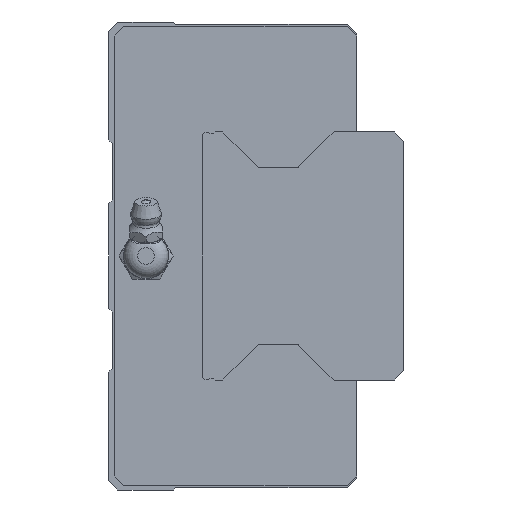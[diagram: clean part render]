
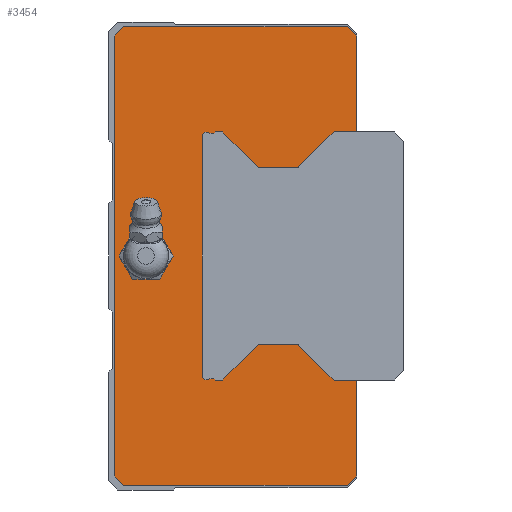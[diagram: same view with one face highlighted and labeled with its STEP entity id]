
A CAD part, left-side view. The second image highlights one B-rep face of the part: STEP entity #3454.
In plain terms, the highlighted planar face has unit normal (-1, 0, 0).
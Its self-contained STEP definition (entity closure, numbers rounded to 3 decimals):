
#178=CIRCLE('',#3776,4.864);
#179=CIRCLE('',#3777,0.3);
#180=CIRCLE('',#3778,0.3);
#181=CIRCLE('',#3779,1.);
#182=CIRCLE('',#3780,1.);
#183=CIRCLE('',#3781,0.3);
#184=CIRCLE('',#3782,0.3);
#678=ORIENTED_EDGE('',*,*,#1422,.T.);
#679=ORIENTED_EDGE('',*,*,#1423,.T.);
#680=ORIENTED_EDGE('',*,*,#1415,.F.);
#681=ORIENTED_EDGE('',*,*,#1343,.F.);
#682=ORIENTED_EDGE('',*,*,#1339,.F.);
#683=ORIENTED_EDGE('',*,*,#1331,.F.);
#684=ORIENTED_EDGE('',*,*,#1407,.F.);
#685=ORIENTED_EDGE('',*,*,#1316,.F.);
#686=ORIENTED_EDGE('',*,*,#1354,.F.);
#687=ORIENTED_EDGE('',*,*,#1351,.F.);
#688=ORIENTED_EDGE('',*,*,#1417,.F.);
#689=ORIENTED_EDGE('',*,*,#1424,.T.);
#690=ORIENTED_EDGE('',*,*,#1425,.T.);
#691=ORIENTED_EDGE('',*,*,#1426,.F.);
#692=ORIENTED_EDGE('',*,*,#1427,.T.);
#693=ORIENTED_EDGE('',*,*,#1428,.F.);
#694=ORIENTED_EDGE('',*,*,#1429,.T.);
#695=ORIENTED_EDGE('',*,*,#1430,.T.);
#696=ORIENTED_EDGE('',*,*,#1431,.T.);
#697=ORIENTED_EDGE('',*,*,#1432,.T.);
#698=ORIENTED_EDGE('',*,*,#1433,.T.);
#699=ORIENTED_EDGE('',*,*,#1434,.T.);
#700=ORIENTED_EDGE('',*,*,#1435,.T.);
#701=ORIENTED_EDGE('',*,*,#1436,.T.);
#702=ORIENTED_EDGE('',*,*,#1437,.T.);
#703=ORIENTED_EDGE('',*,*,#1438,.T.);
#704=ORIENTED_EDGE('',*,*,#1439,.T.);
#705=ORIENTED_EDGE('',*,*,#1440,.F.);
#706=ORIENTED_EDGE('',*,*,#1441,.T.);
#707=ORIENTED_EDGE('',*,*,#1442,.F.);
#708=ORIENTED_EDGE('',*,*,#1443,.T.);
#1316=EDGE_CURVE('',#1740,#1741,#2044,.T.);
#1331=EDGE_CURVE('',#1755,#1756,#2059,.T.);
#1339=EDGE_CURVE('',#1756,#1762,#2066,.T.);
#1343=EDGE_CURVE('',#1762,#1764,#2070,.T.);
#1351=EDGE_CURVE('',#1771,#1772,#2078,.T.);
#1354=EDGE_CURVE('',#1772,#1740,#2081,.T.);
#1407=EDGE_CURVE('',#1741,#1755,#2131,.T.);
#1415=EDGE_CURVE('',#1764,#1811,#2139,.T.);
#1417=EDGE_CURVE('',#1814,#1771,#2141,.T.);
#1422=EDGE_CURVE('',#1818,#1818,#178,.T.);
#1423=EDGE_CURVE('',#1819,#1811,#2146,.T.);
#1424=EDGE_CURVE('',#1814,#1820,#2147,.T.);
#1425=EDGE_CURVE('',#1820,#1821,#2148,.T.);
#1426=EDGE_CURVE('',#1822,#1821,#179,.T.);
#1427=EDGE_CURVE('',#1822,#1823,#2149,.T.);
#1428=EDGE_CURVE('',#1824,#1823,#180,.T.);
#1429=EDGE_CURVE('',#1824,#1825,#2150,.T.);
#1430=EDGE_CURVE('',#1825,#1826,#2151,.T.);
#1431=EDGE_CURVE('',#1826,#1827,#2152,.T.);
#1432=EDGE_CURVE('',#1827,#1828,#2153,.T.);
#1433=EDGE_CURVE('',#1828,#1829,#181,.T.);
#1434=EDGE_CURVE('',#1829,#1830,#2154,.T.);
#1435=EDGE_CURVE('',#1830,#1831,#182,.T.);
#1436=EDGE_CURVE('',#1831,#1832,#2155,.T.);
#1437=EDGE_CURVE('',#1832,#1833,#2156,.T.);
#1438=EDGE_CURVE('',#1833,#1834,#2157,.T.);
#1439=EDGE_CURVE('',#1834,#1835,#2158,.T.);
#1440=EDGE_CURVE('',#1836,#1835,#183,.T.);
#1441=EDGE_CURVE('',#1836,#1837,#2159,.T.);
#1442=EDGE_CURVE('',#1838,#1837,#184,.T.);
#1443=EDGE_CURVE('',#1838,#1819,#2160,.T.);
#1740=VERTEX_POINT('',#5258);
#1741=VERTEX_POINT('',#5260);
#1755=VERTEX_POINT('',#5289);
#1756=VERTEX_POINT('',#5291);
#1762=VERTEX_POINT('',#5307);
#1764=VERTEX_POINT('',#5314);
#1771=VERTEX_POINT('',#5329);
#1772=VERTEX_POINT('',#5331);
#1811=VERTEX_POINT('',#5444);
#1814=VERTEX_POINT('',#5454);
#1818=VERTEX_POINT('',#5465);
#1819=VERTEX_POINT('',#5467);
#1820=VERTEX_POINT('',#5469);
#1821=VERTEX_POINT('',#5471);
#1822=VERTEX_POINT('',#5473);
#1823=VERTEX_POINT('',#5475);
#1824=VERTEX_POINT('',#5477);
#1825=VERTEX_POINT('',#5479);
#1826=VERTEX_POINT('',#5481);
#1827=VERTEX_POINT('',#5483);
#1828=VERTEX_POINT('',#5485);
#1829=VERTEX_POINT('',#5487);
#1830=VERTEX_POINT('',#5489);
#1831=VERTEX_POINT('',#5491);
#1832=VERTEX_POINT('',#5493);
#1833=VERTEX_POINT('',#5495);
#1834=VERTEX_POINT('',#5497);
#1835=VERTEX_POINT('',#5499);
#1836=VERTEX_POINT('',#5501);
#1837=VERTEX_POINT('',#5503);
#1838=VERTEX_POINT('',#5505);
#2044=LINE('',#5259,#2332);
#2059=LINE('',#5290,#2347);
#2066=LINE('',#5306,#2354);
#2070=LINE('',#5313,#2358);
#2078=LINE('',#5330,#2366);
#2081=LINE('',#5335,#2369);
#2131=LINE('',#5437,#2419);
#2139=LINE('',#5451,#2427);
#2141=LINE('',#5456,#2429);
#2146=LINE('',#5466,#2434);
#2147=LINE('',#5468,#2435);
#2148=LINE('',#5470,#2436);
#2149=LINE('',#5474,#2437);
#2150=LINE('',#5478,#2438);
#2151=LINE('',#5480,#2439);
#2152=LINE('',#5482,#2440);
#2153=LINE('',#5484,#2441);
#2154=LINE('',#5488,#2442);
#2155=LINE('',#5492,#2443);
#2156=LINE('',#5494,#2444);
#2157=LINE('',#5496,#2445);
#2158=LINE('',#5498,#2446);
#2159=LINE('',#5502,#2447);
#2160=LINE('',#5506,#2448);
#2332=VECTOR('',#4296,1000.);
#2347=VECTOR('',#4313,1000.);
#2354=VECTOR('',#4326,1000.);
#2358=VECTOR('',#4332,1000.);
#2366=VECTOR('',#4342,1000.);
#2369=VECTOR('',#4347,1000.);
#2419=VECTOR('',#4427,1000.);
#2427=VECTOR('',#4439,1000.);
#2429=VECTOR('',#4443,1000.);
#2434=VECTOR('',#4452,1000.);
#2435=VECTOR('',#4453,1000.);
#2436=VECTOR('',#4454,1000.);
#2437=VECTOR('',#4457,1000.);
#2438=VECTOR('',#4460,1000.);
#2439=VECTOR('',#4461,1000.);
#2440=VECTOR('',#4462,1000.);
#2441=VECTOR('',#4463,1000.);
#2442=VECTOR('',#4466,1000.);
#2443=VECTOR('',#4469,1000.);
#2444=VECTOR('',#4470,1000.);
#2445=VECTOR('',#4471,1000.);
#2446=VECTOR('',#4472,1000.);
#2447=VECTOR('',#4475,1000.);
#2448=VECTOR('',#4478,1000.);
#2714=EDGE_LOOP('',(#678));
#2715=EDGE_LOOP('',(#679,#680,#681,#682,#683,#684,#685,#686,#687,#688,#689,
#690,#691,#692,#693,#694,#695,#696,#697,#698,#699,#700,#701,#702,#703,#704,
#705,#706,#707,#708));
#3049=FACE_BOUND('',#2714,.T.);
#3050=FACE_BOUND('',#2715,.T.);
#3294=PLANE('',#3775);
#3454=ADVANCED_FACE('',(#3049,#3050),#3294,.F.);
#3775=AXIS2_PLACEMENT_3D('',#5463,#4448,#4449);
#3776=AXIS2_PLACEMENT_3D('',#5464,#4450,#4451);
#3777=AXIS2_PLACEMENT_3D('',#5472,#4455,#4456);
#3778=AXIS2_PLACEMENT_3D('',#5476,#4458,#4459);
#3779=AXIS2_PLACEMENT_3D('',#5486,#4464,#4465);
#3780=AXIS2_PLACEMENT_3D('',#5490,#4467,#4468);
#3781=AXIS2_PLACEMENT_3D('',#5500,#4473,#4474);
#3782=AXIS2_PLACEMENT_3D('',#5504,#4476,#4477);
#4296=DIRECTION('',(0.,0.707,0.707));
#4313=DIRECTION('',(0.,-0.707,0.707));
#4326=DIRECTION('',(0.,-1.,0.));
#4332=DIRECTION('',(0.,-0.707,-0.707));
#4342=DIRECTION('',(0.,0.707,-0.707));
#4347=DIRECTION('',(0.,1.,0.));
#4427=DIRECTION('',(0.,0.,1.));
#4439=DIRECTION('',(0.,0.,-1.));
#4443=DIRECTION('',(0.,0.,-1.));
#4448=DIRECTION('',(1.,0.,0.));
#4449=DIRECTION('',(0.,0.,-1.));
#4450=DIRECTION('',(1.,0.,0.));
#4451=DIRECTION('',(0.,0.,-1.));
#4452=DIRECTION('',(0.,-1.,0.));
#4453=DIRECTION('',(0.,1.,0.));
#4454=DIRECTION('',(0.,0.712,0.702));
#4455=DIRECTION('',(1.,0.,0.));
#4456=DIRECTION('',(0.,0.,-1.));
#4457=DIRECTION('',(0.,1.,0.));
#4458=DIRECTION('',(1.,0.,0.));
#4459=DIRECTION('',(0.,0.,-1.));
#4460=DIRECTION('',(0.,0.707,-0.707));
#4461=DIRECTION('',(0.,1.,0.));
#4462=DIRECTION('',(0.,0.707,0.707));
#4463=DIRECTION('',(0.,1.,0.));
#4464=DIRECTION('',(1.,0.,0.));
#4465=DIRECTION('',(0.,0.,-1.));
#4466=DIRECTION('',(0.,0.,1.));
#4467=DIRECTION('',(1.,0.,0.));
#4468=DIRECTION('',(0.,0.,-1.));
#4469=DIRECTION('',(0.,-1.,0.));
#4470=DIRECTION('',(0.,-0.707,0.707));
#4471=DIRECTION('',(0.,-1.,0.));
#4472=DIRECTION('',(0.,-0.707,-0.707));
#4473=DIRECTION('',(1.,0.,0.));
#4474=DIRECTION('',(0.,0.,-1.));
#4475=DIRECTION('',(0.,-1.,0.));
#4476=DIRECTION('',(1.,0.,0.));
#4477=DIRECTION('',(0.,0.,-1.));
#4478=DIRECTION('',(0.,-0.712,0.702));
#5258=CARTESIAN_POINT('',(-146.,49.8,-49.));
#5259=CARTESIAN_POINT('',(-146.,49.8,-49.));
#5260=CARTESIAN_POINT('',(-146.,51.8,-47.));
#5289=CARTESIAN_POINT('',(-146.,51.8,47.));
#5290=CARTESIAN_POINT('',(-146.,51.8,47.));
#5291=CARTESIAN_POINT('',(-146.,49.8,49.));
#5306=CARTESIAN_POINT('',(-146.,49.8,49.));
#5307=CARTESIAN_POINT('',(-146.,2.,49.));
#5313=CARTESIAN_POINT('',(-146.,2.,49.));
#5314=CARTESIAN_POINT('',(-146.,0.,47.));
#5329=CARTESIAN_POINT('',(-146.,0.,-47.));
#5330=CARTESIAN_POINT('',(-146.,0.,-47.));
#5331=CARTESIAN_POINT('',(-146.,2.,-49.));
#5335=CARTESIAN_POINT('',(-146.,2.,-49.));
#5437=CARTESIAN_POINT('',(-146.,51.8,-47.));
#5444=CARTESIAN_POINT('',(-146.,0.,26.5));
#5451=CARTESIAN_POINT('',(-146.,0.,47.));
#5454=CARTESIAN_POINT('',(-146.,0.,-26.5));
#5456=CARTESIAN_POINT('',(-146.,0.,47.));
#5463=CARTESIAN_POINT('',(-146.,0.,0.));
#5464=CARTESIAN_POINT('',(-146.,45.,0.));
#5465=CARTESIAN_POINT('',(-146.,45.,-4.864));
#5466=CARTESIAN_POINT('',(-146.,4.83,26.5));
#5467=CARTESIAN_POINT('',(-146.,4.83,26.5));
#5468=CARTESIAN_POINT('',(-146.,-8.,-26.5));
#5469=CARTESIAN_POINT('',(-146.,4.83,-26.5));
#5470=CARTESIAN_POINT('',(-146.,4.83,-26.5));
#5471=CARTESIAN_POINT('',(-146.,12.342,-19.086));
#5472=CARTESIAN_POINT('',(-146.,12.553,-19.3));
#5473=CARTESIAN_POINT('',(-146.,12.553,-19.));
#5474=CARTESIAN_POINT('',(-146.,12.553,-19.));
#5475=CARTESIAN_POINT('',(-146.,20.976,-19.));
#5476=CARTESIAN_POINT('',(-146.,20.976,-19.3));
#5477=CARTESIAN_POINT('',(-146.,21.188,-19.088));
#5478=CARTESIAN_POINT('',(-146.,21.188,-19.088));
#5479=CARTESIAN_POINT('',(-146.,28.6,-26.5));
#5480=CARTESIAN_POINT('',(-146.,28.6,-26.5));
#5481=CARTESIAN_POINT('',(-146.,30.25,-26.5));
#5482=CARTESIAN_POINT('',(-146.,30.25,-26.5));
#5483=CARTESIAN_POINT('',(-146.,30.5,-26.25));
#5484=CARTESIAN_POINT('',(-146.,30.5,-26.25));
#5485=CARTESIAN_POINT('',(-146.,31.339,-26.25));
#5486=CARTESIAN_POINT('',(-146.,32.,-25.5));
#5487=CARTESIAN_POINT('',(-146.,33.,-25.5));
#5488=CARTESIAN_POINT('',(-146.,33.,-25.5));
#5489=CARTESIAN_POINT('',(-146.,33.,25.5));
#5490=CARTESIAN_POINT('',(-146.,32.,25.5));
#5491=CARTESIAN_POINT('',(-146.,31.339,26.25));
#5492=CARTESIAN_POINT('',(-146.,31.339,26.25));
#5493=CARTESIAN_POINT('',(-146.,30.5,26.25));
#5494=CARTESIAN_POINT('',(-146.,30.5,26.25));
#5495=CARTESIAN_POINT('',(-146.,30.25,26.5));
#5496=CARTESIAN_POINT('',(-146.,30.25,26.5));
#5497=CARTESIAN_POINT('',(-146.,28.6,26.5));
#5498=CARTESIAN_POINT('',(-146.,28.6,26.5));
#5499=CARTESIAN_POINT('',(-146.,21.188,19.088));
#5500=CARTESIAN_POINT('',(-146.,20.976,19.3));
#5501=CARTESIAN_POINT('',(-146.,20.976,19.));
#5502=CARTESIAN_POINT('',(-146.,20.976,19.));
#5503=CARTESIAN_POINT('',(-146.,12.553,19.));
#5504=CARTESIAN_POINT('',(-146.,12.553,19.3));
#5505=CARTESIAN_POINT('',(-146.,12.342,19.086));
#5506=CARTESIAN_POINT('',(-146.,12.342,19.086));
